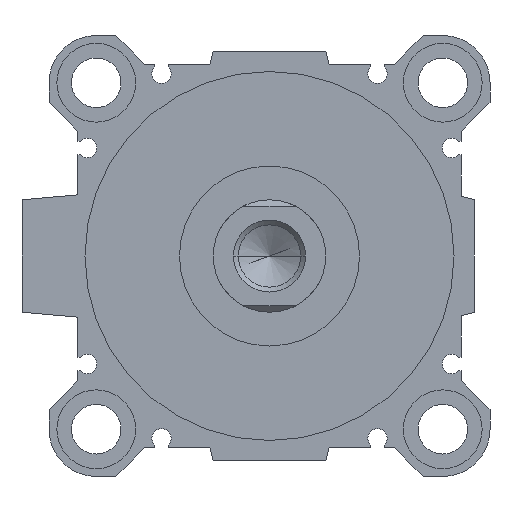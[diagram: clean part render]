
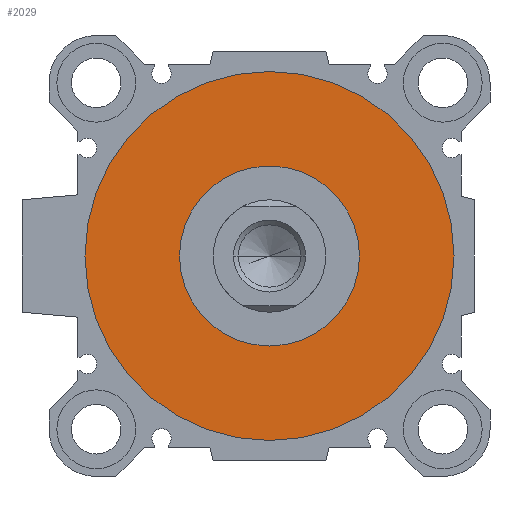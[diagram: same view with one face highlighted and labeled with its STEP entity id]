
A CAD part, left-side view. The second image highlights one B-rep face of the part: STEP entity #2029.
In plain terms, the highlighted planar face has unit normal (-1, 0, 0).
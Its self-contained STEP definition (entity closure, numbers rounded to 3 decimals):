
#195 = VERTEX_POINT ( 'NONE', #3776 ) ;
#355 = CARTESIAN_POINT ( 'NONE',  ( 5., 0., 0. ) ) ;
#809 = DIRECTION ( 'NONE',  ( 1., 0., 0. ) ) ;
#829 = DIRECTION ( 'NONE',  ( 0., 0., -1. ) ) ;
#894 = CARTESIAN_POINT ( 'NONE',  ( 5., 0., 0. ) ) ;
#943 = CARTESIAN_POINT ( 'NONE',  ( 5., 0., -41. ) ) ;
#1092 = DIRECTION ( 'NONE',  ( 1., 0., 0. ) ) ;
#1251 = VERTEX_POINT ( 'NONE', #2864 ) ;
#1351 = DIRECTION ( 'NONE',  ( 0., 0., -1. ) ) ;
#1829 = EDGE_LOOP ( 'NONE', ( #3482, #4905 ) ) ;
#1935 = CARTESIAN_POINT ( 'NONE',  ( 5., 0., -20. ) ) ;
#1946 = CARTESIAN_POINT ( 'NONE',  ( 5., 0., 0. ) ) ;
#1997 = CIRCLE ( 'NONE', #2259, 41. ) ;
#2018 = CARTESIAN_POINT ( 'NONE',  ( 5., 0., 0. ) ) ;
#2029 = ADVANCED_FACE ( 'NONE', ( #4881, #3571 ), #5243, .F. ) ;
#2259 = AXIS2_PLACEMENT_3D ( 'NONE', #894, #3364, #2550 ) ;
#2550 = DIRECTION ( 'NONE',  ( 0., 0., -1. ) ) ;
#2622 = DIRECTION ( 'NONE',  ( 1., 0., 0. ) ) ;
#2630 = AXIS2_PLACEMENT_3D ( 'NONE', #2018, #4538, #829 ) ;
#2648 = CARTESIAN_POINT ( 'NONE',  ( 5., 0., 0. ) ) ;
#2864 = CARTESIAN_POINT ( 'NONE',  ( 5., 0., 20. ) ) ;
#3067 = CIRCLE ( 'NONE', #2630, 20. ) ;
#3118 = AXIS2_PLACEMENT_3D ( 'NONE', #1946, #1092, #3160 ) ;
#3160 = DIRECTION ( 'NONE',  ( 0., 1., 0. ) ) ;
#3202 = EDGE_CURVE ( 'NONE', #4328, #195, #4256, .T. ) ;
#3364 = DIRECTION ( 'NONE',  ( 1., 0., 0. ) ) ;
#3429 = ORIENTED_EDGE ( 'NONE', *, *, #3202, .F. ) ;
#3482 = ORIENTED_EDGE ( 'NONE', *, *, #4712, .T. ) ;
#3498 = CIRCLE ( 'NONE', #5074, 20. ) ;
#3571 = FACE_BOUND ( 'NONE', #1829, .T. ) ;
#3744 = EDGE_LOOP ( 'NONE', ( #5242, #3429 ) ) ;
#3776 = CARTESIAN_POINT ( 'NONE',  ( 5., 0., 41. ) ) ;
#3995 = AXIS2_PLACEMENT_3D ( 'NONE', #355, #809, #1351 ) ;
#4154 = VERTEX_POINT ( 'NONE', #1935 ) ;
#4232 = EDGE_CURVE ( 'NONE', #195, #4328, #1997, .T. ) ;
#4256 = CIRCLE ( 'NONE', #3995, 41. ) ;
#4328 = VERTEX_POINT ( 'NONE', #943 ) ;
#4538 = DIRECTION ( 'NONE',  ( 1., 0., 0. ) ) ;
#4712 = EDGE_CURVE ( 'NONE', #1251, #4154, #3067, .T. ) ;
#4838 = EDGE_CURVE ( 'NONE', #4154, #1251, #3498, .T. ) ;
#4881 = FACE_OUTER_BOUND ( 'NONE', #3744, .T. ) ;
#4905 = ORIENTED_EDGE ( 'NONE', *, *, #4838, .T. ) ;
#5074 = AXIS2_PLACEMENT_3D ( 'NONE', #2648, #2622, #5129 ) ;
#5129 = DIRECTION ( 'NONE',  ( 0., 0., -1. ) ) ;
#5242 = ORIENTED_EDGE ( 'NONE', *, *, #4232, .F. ) ;
#5243 = PLANE ( 'NONE',  #3118 ) ;
